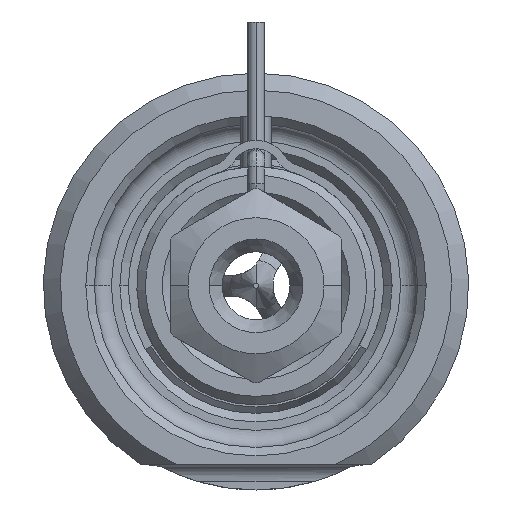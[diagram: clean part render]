
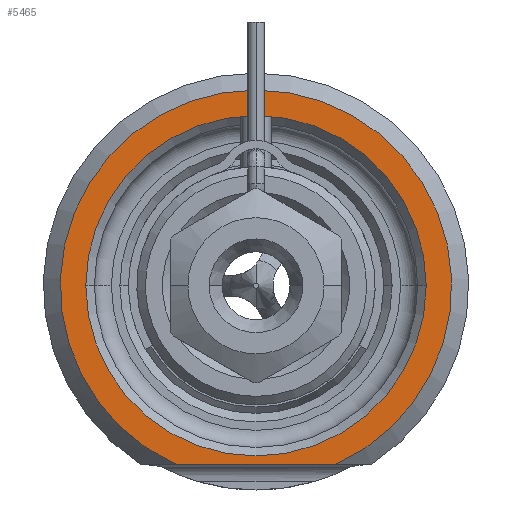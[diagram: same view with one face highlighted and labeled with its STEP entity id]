
A CAD part, front view. The second image highlights one B-rep face of the part: STEP entity #5465.
In plain terms, the highlighted planar face has unit normal (0, -1, 0).
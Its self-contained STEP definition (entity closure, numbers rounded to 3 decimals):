
#1789=DIRECTION('',(1.,0.,0.));
#1790=VECTOR('',#1789,9.381);
#1791=CARTESIAN_POINT('',(-4.69,0.,-10.5));
#1792=LINE('',#1791,#1790);
#1793=CARTESIAN_POINT('',(0.,0.,0.));
#1794=DIRECTION('',(0.,1.,0.));
#1795=DIRECTION('',(-1.,0.,0.));
#1796=AXIS2_PLACEMENT_3D('',#1793,#1794,#1795);
#1798=CARTESIAN_POINT('',(0.,0.,0.));
#1799=DIRECTION('',(0.,1.,0.));
#1800=DIRECTION('',(1.,0.,0.));
#1801=AXIS2_PLACEMENT_3D('',#1798,#1799,#1800);
#1872=CARTESIAN_POINT('',(0.,0.,0.));
#1873=DIRECTION('',(0.,-1.,0.));
#1874=DIRECTION('',(0.408,0.,-0.913));
#1875=AXIS2_PLACEMENT_3D('',#1872,#1873,#1874);
#3174=CARTESIAN_POINT('',(-10.,0.,0.));
#3175=CARTESIAN_POINT('',(10.,0.,0.));
#3176=VERTEX_POINT('',#3174);
#3177=VERTEX_POINT('',#3175);
#3218=CARTESIAN_POINT('',(-4.69,0.,-10.5));
#3219=CARTESIAN_POINT('',(4.69,0.,-10.5));
#3220=VERTEX_POINT('',#3218);
#3221=VERTEX_POINT('',#3219);
#5449=CARTESIAN_POINT('',(0.,0.,0.));
#5450=DIRECTION('',(0.,-1.,0.));
#5451=DIRECTION('',(1.,0.,0.));
#5452=AXIS2_PLACEMENT_3D('',#5449,#5450,#5451);
#5453=PLANE('',#5452);
#5455=ORIENTED_EDGE('',*,*,#5454,.F.);
#5457=ORIENTED_EDGE('',*,*,#5456,.F.);
#5458=EDGE_LOOP('',(#5455,#5457));
#5459=FACE_OUTER_BOUND('',#5458,.F.);
#5460=ORIENTED_EDGE('',*,*,#5439,.F.);
#5462=ORIENTED_EDGE('',*,*,#5461,.F.);
#5463=EDGE_LOOP('',(#5460,#5462));
#5464=FACE_BOUND('',#5463,.F.);
#5465=ADVANCED_FACE('',(#5459,#5464),#5453,.T.);
#1797=CIRCLE('',#1796,10.);
#1802=CIRCLE('',#1801,10.);
#1876=CIRCLE('',#1875,11.5);
#5439=EDGE_CURVE('',#3176,#3177,#1797,.T.);
#5454=EDGE_CURVE('',#3220,#3221,#1792,.T.);
#5456=EDGE_CURVE('',#3221,#3220,#1876,.T.);
#5461=EDGE_CURVE('',#3177,#3176,#1802,.T.);
